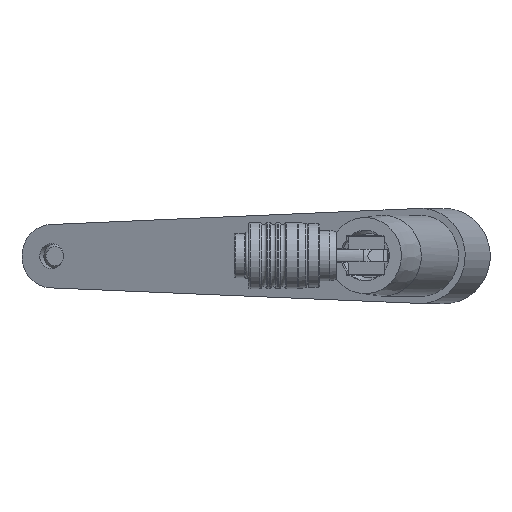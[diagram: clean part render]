
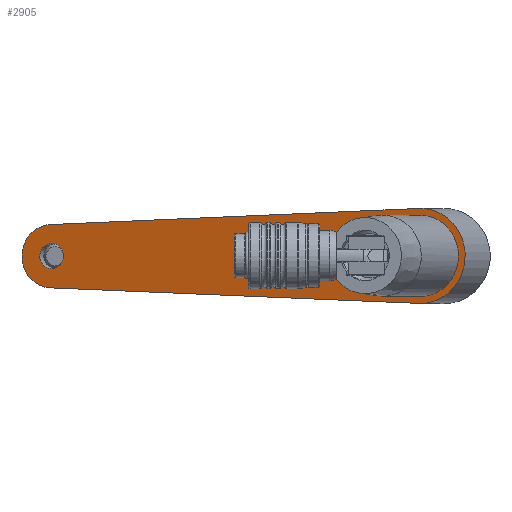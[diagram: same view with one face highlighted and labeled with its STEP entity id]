
A CAD part, top view. The second image highlights one B-rep face of the part: STEP entity #2905.
In plain terms, the highlighted planar face has unit normal (-0.368, 0, 0.93) as drawn and (0.997, 0.08, 0) by its records, which use the part's own axes.
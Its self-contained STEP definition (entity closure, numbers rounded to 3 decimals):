
#206=PLANE('',#3664);
#338=LINE('',#7904,#486);
#342=LINE('',#7916,#490);
#486=VECTOR('',#4417,1000.);
#490=VECTOR('',#4429,1000.);
#1265=ORIENTED_EDGE('',*,*,#1747,.F.);
#1266=ORIENTED_EDGE('',*,*,#1748,.T.);
#1267=ORIENTED_EDGE('',*,*,#1734,.F.);
#1268=ORIENTED_EDGE('',*,*,#1743,.F.);
#1269=ORIENTED_EDGE('',*,*,#1740,.F.);
#1270=ORIENTED_EDGE('',*,*,#1737,.F.);
#1734=EDGE_CURVE('',#2030,#2032,#2099,.F.);
#1737=EDGE_CURVE('',#2032,#2034,#338,.T.);
#1740=EDGE_CURVE('',#2034,#2036,#2100,.F.);
#1743=EDGE_CURVE('',#2036,#2030,#342,.T.);
#1747=EDGE_CURVE('',#2040,#2040,#2101,.T.);
#1748=EDGE_CURVE('',#2041,#2041,#2102,.F.);
#2030=VERTEX_POINT('',#7896);
#2032=VERTEX_POINT('',#7899);
#2034=VERTEX_POINT('',#7905);
#2036=VERTEX_POINT('',#7911);
#2040=VERTEX_POINT('',#7925);
#2041=VERTEX_POINT('',#7927);
#2099=ELLIPSE('',#3654,15.048,15.);
#2100=ELLIPSE('',#3658,10.032,10.);
#2101=ELLIPSE('',#3665,4.013,4.);
#2102=ELLIPSE('',#3666,12.791,12.75);
#2340=EDGE_LOOP('',(#1265));
#2341=EDGE_LOOP('',(#1266));
#2342=EDGE_LOOP('',(#1267,#1268,#1269,#1270));
#2640=FACE_BOUND('',#2340,.T.);
#2641=FACE_BOUND('',#2341,.T.);
#2642=FACE_BOUND('',#2342,.T.);
#2905=ADVANCED_FACE('',(#2640,#2641,#2642),#206,.T.);
#3654=AXIS2_PLACEMENT_3D('',#7898,#4410,#4411);
#3658=AXIS2_PLACEMENT_3D('',#7910,#4422,#4423);
#3664=AXIS2_PLACEMENT_3D('',#7923,#4437,#4438);
#3665=AXIS2_PLACEMENT_3D('',#7924,#4439,#4440);
#3666=AXIS2_PLACEMENT_3D('',#7926,#4441,#4442);
#4410=DIRECTION('',(0.997,0.08,0.));
#4411=DIRECTION('',(-0.08,0.997,0.));
#4417=DIRECTION('',(-0.08,0.996,-0.04));
#4422=DIRECTION('',(0.997,0.08,0.));
#4423=DIRECTION('',(-0.08,0.997,0.));
#4429=DIRECTION('',(0.08,-0.996,-0.04));
#4437=DIRECTION('',(0.997,0.08,0.));
#4438=DIRECTION('',(-0.08,0.997,0.));
#4439=DIRECTION('',(0.997,0.08,0.));
#4440=DIRECTION('',(-0.08,0.997,0.));
#4441=DIRECTION('',(0.997,0.08,0.));
#4442=DIRECTION('',(0.08,-0.997,0.));
#7896=CARTESIAN_POINT('',(25.752,0.6,-14.988));
#7898=CARTESIAN_POINT('',(25.8,0.,0.));
#7899=CARTESIAN_POINT('',(25.752,0.6,14.988));
#7904=CARTESIAN_POINT('',(25.76,0.501,14.992));
#7905=CARTESIAN_POINT('',(15.768,125.4,9.992));
#7910=CARTESIAN_POINT('',(15.8,125.,0.));
#7911=CARTESIAN_POINT('',(15.768,125.4,-9.992));
#7916=CARTESIAN_POINT('',(15.839,124.509,-10.028));
#7923=CARTESIAN_POINT('',(15.,135.,50.));
#7924=CARTESIAN_POINT('',(15.8,125.,0.));
#7925=CARTESIAN_POINT('',(15.48,129.,0.));
#7926=CARTESIAN_POINT('',(25.8,0.,0.));
#7927=CARTESIAN_POINT('',(26.82,-12.75,0.));
